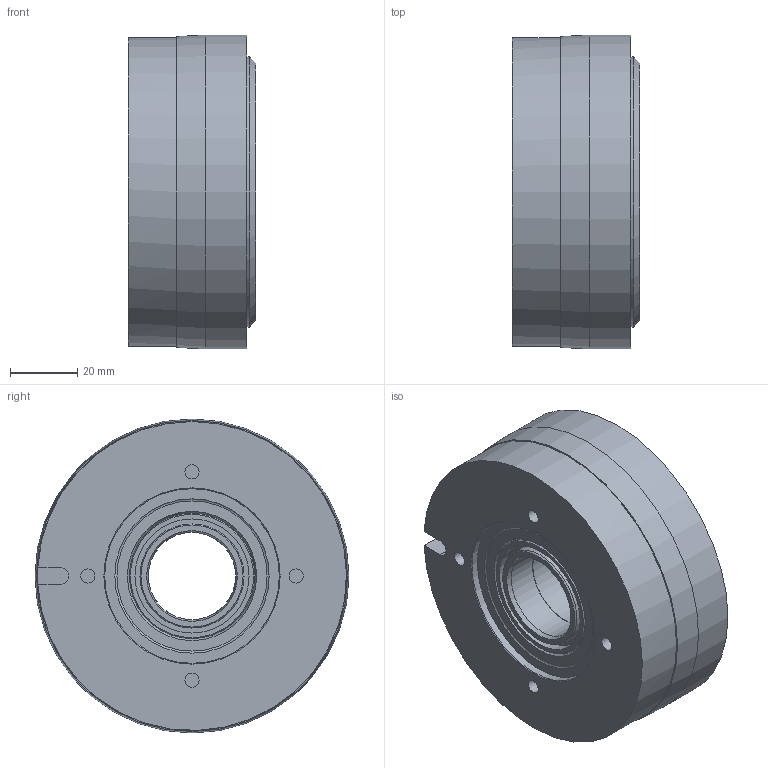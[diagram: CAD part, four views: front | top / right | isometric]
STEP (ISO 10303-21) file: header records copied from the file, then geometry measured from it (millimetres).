
FILE_DESCRIPTION (( 'STEP AP214' ), '1' );
FILE_NAME ('86 61109Pxx_PF-ID 215914_Index -.STEP', '2020-02-06T14:06:48', ( '' ), ( '' ), 'SwSTEP 2.0', 'SolidWorks 2018', '' );
FILE_SCHEMA (( 'AUTOMOTIVE_DESIGN' ));
Length unit declared in the file: millimetre
Products named in the file (1): 86 61109Pxx_PF-ID 215914_Index -
Bounding box: 37.97 x 93.5 x 93.5 mm (x, y, z)
Volume: 213559.1 mm3; surface area: 48977.8 mm2
Topology: 1 solids, 1 shells, 70 faces, 125 edges, 78 vertices
Faces by surface type: cylinder 28, plane 26, cone 12, torus 4
Full cylindrical faces by diameter (mm): 4.2 x4, 5 x3, 26 x1, 26.2 x1, 30 x1, 31 x2, 32 x1, 34 x1, 37.3 x1, 39 x1, 40.6 x1, 41.9 x1, 52 x1, 75.8 x1, 80.5 x1, 89.2 x1, 90 x1, 90.5 x1, 91.5 x1, 92 x1, 93.5 x1
Entity records: 1949 total; most frequent: CARTESIAN_POINT 587, DIRECTION 282, ORIENTED_EDGE 160, EDGE_LOOP 142, AXIS2_PLACEMENT_3D 137, FACE_OUTER_BOUND 101, EDGE_CURVE 80, VERTEX_POINT 76
